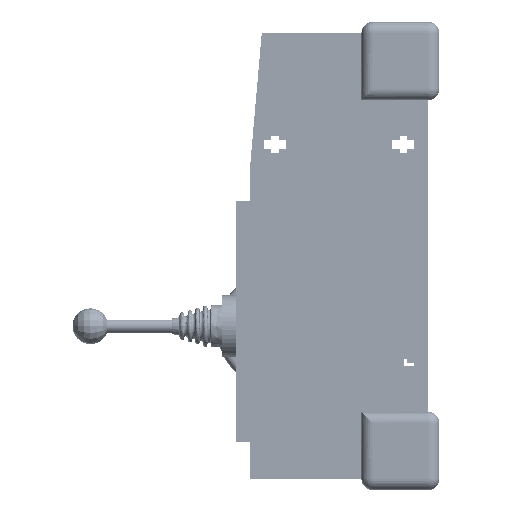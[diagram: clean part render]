
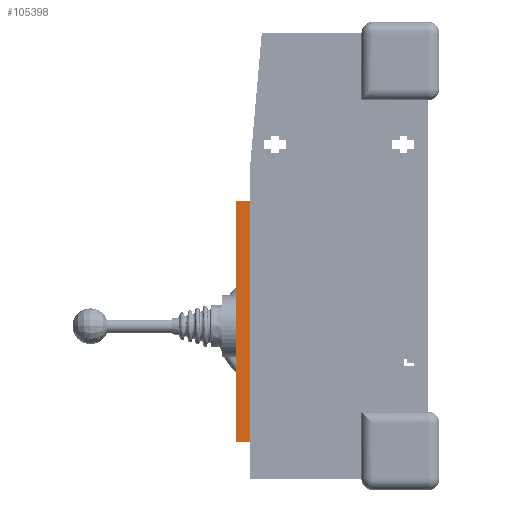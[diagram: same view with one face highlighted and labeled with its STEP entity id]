
A CAD part, left-side view. The second image highlights one B-rep face of the part: STEP entity #105398.
In plain terms, the highlighted planar face has unit normal (-1, 0, 0) as drawn and (1, 0, 0) by its records, which use the part's own axes.
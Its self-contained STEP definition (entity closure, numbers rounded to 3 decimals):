
#1926 = DIRECTION ( 'NONE',  ( 0., 0., -1. ) ) ;
#17538 = VECTOR ( 'NONE', #94044, 1000. ) ;
#21214 = VERTEX_POINT ( 'NONE', #131890 ) ;
#31952 = EDGE_LOOP ( 'NONE', ( #277243, #198116, #176506, #133245 ) ) ;
#32748 = EDGE_CURVE ( 'NONE', #21214, #139385, #199182, .T. ) ;
#36945 = CARTESIAN_POINT ( 'NONE',  ( -9.053, 16.734, 6.35 ) ) ;
#63518 = CARTESIAN_POINT ( 'NONE',  ( -9.053, 124.782, 6.35 ) ) ;
#70867 = DIRECTION ( 'NONE',  ( 0., 1., 0. ) ) ;
#82501 = EDGE_CURVE ( 'NONE', #307857, #21214, #435074, .T. ) ;
#94044 = DIRECTION ( 'NONE',  ( 0., 0., -1. ) ) ;
#105398 = ADVANCED_FACE ( 'NONE', ( #348366 ), #243309, .F. ) ;
#117362 = CARTESIAN_POINT ( 'NONE',  ( -9.053, 124.782, 0. ) ) ;
#131890 = CARTESIAN_POINT ( 'NONE',  ( -9.053, 124.782, 6.35 ) ) ;
#133245 = ORIENTED_EDGE ( 'NONE', *, *, #415805, .T. ) ;
#139385 = VERTEX_POINT ( 'NONE', #372488 ) ;
#142527 = AXIS2_PLACEMENT_3D ( 'NONE', #63518, #168617, #376528 ) ;
#152444 = CARTESIAN_POINT ( 'NONE',  ( -9.053, 124.782, 6.35 ) ) ;
#168617 = DIRECTION ( 'NONE',  ( -1., 0., 0. ) ) ;
#176506 = ORIENTED_EDGE ( 'NONE', *, *, #82501, .F. ) ;
#181744 = LINE ( 'NONE', #36945, #255893 ) ;
#192156 = VERTEX_POINT ( 'NONE', #233646 ) ;
#198116 = ORIENTED_EDGE ( 'NONE', *, *, #32748, .F. ) ;
#199182 = LINE ( 'NONE', #306522, #17538 ) ;
#233646 = CARTESIAN_POINT ( 'NONE',  ( -9.053, 16.734, 0. ) ) ;
#243309 = PLANE ( 'NONE',  #142527 ) ;
#255893 = VECTOR ( 'NONE', #1926, 1000. ) ;
#277243 = ORIENTED_EDGE ( 'NONE', *, *, #379299, .T. ) ;
#306522 = CARTESIAN_POINT ( 'NONE',  ( -9.053, 124.782, 6.35 ) ) ;
#307857 = VERTEX_POINT ( 'NONE', #319768 ) ;
#316719 = VECTOR ( 'NONE', #70867, 1000. ) ;
#319768 = CARTESIAN_POINT ( 'NONE',  ( -9.053, 16.734, 6.35 ) ) ;
#325490 = VECTOR ( 'NONE', #409356, 1000. ) ;
#348366 = FACE_OUTER_BOUND ( 'NONE', #31952, .T. ) ;
#372488 = CARTESIAN_POINT ( 'NONE',  ( -9.053, 124.782, 0. ) ) ;
#376528 = DIRECTION ( 'NONE',  ( 0., -1., 0. ) ) ;
#379299 = EDGE_CURVE ( 'NONE', #192156, #139385, #437359, .T. ) ;
#409356 = DIRECTION ( 'NONE',  ( 0., 1., 0. ) ) ;
#415805 = EDGE_CURVE ( 'NONE', #307857, #192156, #181744, .T. ) ;
#435074 = LINE ( 'NONE', #152444, #325490 ) ;
#437359 = LINE ( 'NONE', #117362, #316719 ) ;
